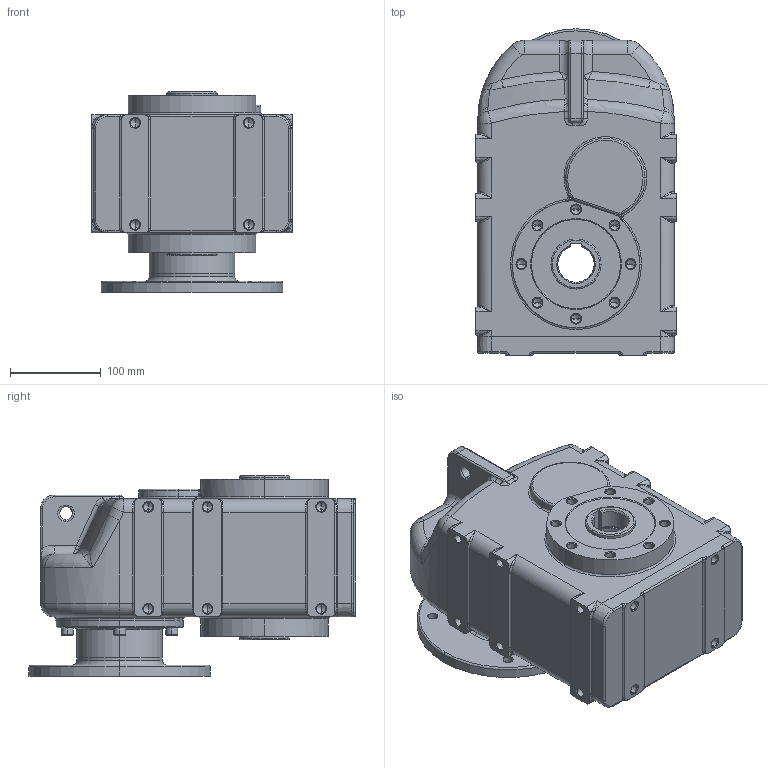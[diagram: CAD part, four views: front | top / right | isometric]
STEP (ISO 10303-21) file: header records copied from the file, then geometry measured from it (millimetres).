
FILE_DESCRIPTION (( 'STEP AP214' ), '1' );
FILE_NAME ('tnc33-f165-ap80.STEP', '2009-09-23T05:55:54', ( '' ), ( '' ), 'SwSTEP 2.0', 'SolidWorks 2003240', '' );
FILE_SCHEMA (( 'AUTOMOTIVE_DESIGN' ));
Length unit declared in the file: millimetre
Products named in the file (4): Priruba d80 MTC52A_130-165-200; Skøíò TNC3_Skøíò TNC33 AP80; tnc33-f165-ap80; N021143_Šroub s vnitøním šestihranem DIN 912 - M6 x 20
Assembly tree (8 placements, depth 2):
  tnc33-f165-ap80
    N021143_Šroub s vnitøním šestihranem DIN 912 - M6 x 20  x6
    Priruba d80 MTC52A_130-165-200
    Skøíò TNC3_Skøíò TNC33 AP80
Bounding box: 220 x 359 x 220 mm (x, y, z)
Volume: 9887324.2 mm3; surface area: 452556.9 mm2
Topology: 8 solids, 8 shells, 920 faces, 2090 edges, 1152 vertices
Faces by surface type: cylinder 281, cone 259, plane 171, torus 145, bspline 60, sphere 4
Entity records: 84254 total; most frequent: CARTESIAN_POINT 65734, DIRECTION 4001, ORIENTED_EDGE 3468, EDGE_CURVE 1734, AXIS2_PLACEMENT_3D 1664, VERTEX_POINT 1022, CIRCLE 923, EDGE_LOOP 888
